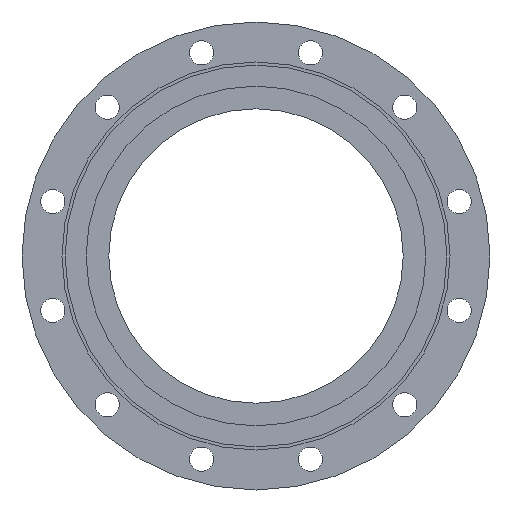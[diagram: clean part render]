
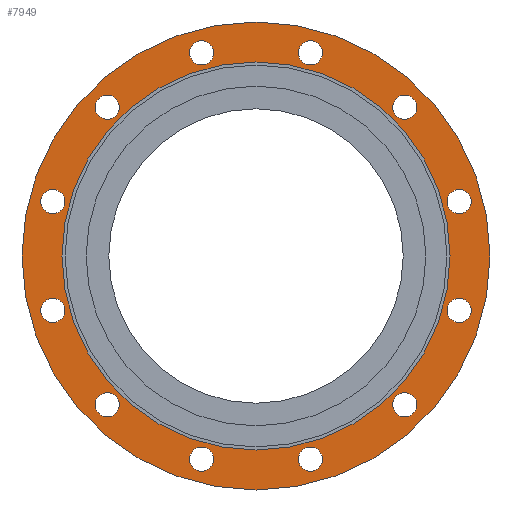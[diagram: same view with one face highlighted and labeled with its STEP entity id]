
A CAD part, left-side view. The second image highlights one B-rep face of the part: STEP entity #7949.
In plain terms, the highlighted planar face has unit normal (-1, 0, 0).
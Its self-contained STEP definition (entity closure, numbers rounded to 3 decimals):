
#7949=ADVANCED_FACE('',(#14298,#14300,#14302,#14304,#14306,#14308,#14310,#14312,
#14314,#14316,#14318,#14320,#14322,#14324),#14326,.T.);
#14298=FACE_BOUND('',#14299,.T.);
#14299=EDGE_LOOP('',(#19536,#19537));
#14300=FACE_BOUND('',#14301,.T.);
#14301=EDGE_LOOP('',(#19538));
#14302=FACE_BOUND('',#14303,.T.);
#14303=EDGE_LOOP('',(#19539));
#14304=FACE_BOUND('',#14305,.T.);
#14305=EDGE_LOOP('',(#19540));
#14306=FACE_BOUND('',#14307,.T.);
#14307=EDGE_LOOP('',(#19541));
#14308=FACE_BOUND('',#14309,.T.);
#14309=EDGE_LOOP('',(#19542));
#14310=FACE_BOUND('',#14311,.T.);
#14311=EDGE_LOOP('',(#19543));
#14312=FACE_BOUND('',#14313,.T.);
#14313=EDGE_LOOP('',(#19544));
#14314=FACE_BOUND('',#14315,.T.);
#14315=EDGE_LOOP('',(#19545));
#14316=FACE_BOUND('',#14317,.T.);
#14317=EDGE_LOOP('',(#19546));
#14318=FACE_BOUND('',#14319,.T.);
#14319=EDGE_LOOP('',(#19547));
#14320=FACE_BOUND('',#14321,.T.);
#14321=EDGE_LOOP('',(#19548));
#14322=FACE_BOUND('',#14323,.T.);
#14323=EDGE_LOOP('',(#19549,#19550));
#14324=FACE_BOUND('',#14325,.T.);
#14325=EDGE_LOOP('',(#19551));
#14326=PLANE('',#14327);
#14327=AXIS2_PLACEMENT_3D('',#14328,#14329,#14330);
#14328=CARTESIAN_POINT('',(13108.098,5586.919,0.));
#14329=DIRECTION('',(-1.,0.,0.));
#14330=DIRECTION('',(0.,0.,1.));
#19536=ORIENTED_EDGE('',*,*,#22170,.F.);
#19537=ORIENTED_EDGE('',*,*,#22171,.F.);
#19538=ORIENTED_EDGE('',*,*,#22096,.T.);
#19539=ORIENTED_EDGE('',*,*,#22098,.T.);
#19540=ORIENTED_EDGE('',*,*,#22100,.T.);
#19541=ORIENTED_EDGE('',*,*,#22102,.T.);
#19542=ORIENTED_EDGE('',*,*,#22104,.T.);
#19543=ORIENTED_EDGE('',*,*,#22130,.T.);
#19544=ORIENTED_EDGE('',*,*,#22132,.T.);
#19545=ORIENTED_EDGE('',*,*,#22134,.T.);
#19546=ORIENTED_EDGE('',*,*,#22136,.T.);
#19547=ORIENTED_EDGE('',*,*,#22138,.T.);
#19548=ORIENTED_EDGE('',*,*,#22140,.T.);
#19549=ORIENTED_EDGE('',*,*,#22169,.T.);
#19550=ORIENTED_EDGE('',*,*,#22168,.T.);
#19551=ORIENTED_EDGE('',*,*,#22094,.T.);
#22094=EDGE_CURVE('',#26270,#26270,#26271,.T.);
#22096=EDGE_CURVE('',#26274,#26274,#26275,.T.);
#22098=EDGE_CURVE('',#26278,#26278,#26279,.T.);
#22100=EDGE_CURVE('',#26282,#26282,#26283,.T.);
#22102=EDGE_CURVE('',#26286,#26286,#26287,.T.);
#22104=EDGE_CURVE('',#26290,#26290,#26291,.T.);
#22130=EDGE_CURVE('',#26342,#26342,#26343,.T.);
#22132=EDGE_CURVE('',#26346,#26346,#26347,.T.);
#22134=EDGE_CURVE('',#26350,#26350,#26351,.T.);
#22136=EDGE_CURVE('',#26354,#26354,#26355,.T.);
#22138=EDGE_CURVE('',#26358,#26358,#26359,.T.);
#22140=EDGE_CURVE('',#26362,#26362,#26363,.T.);
#22168=EDGE_CURVE('',#26418,#26419,#26420,.T.);
#22169=EDGE_CURVE('',#26419,#26418,#26421,.T.);
#22170=EDGE_CURVE('',#26422,#26423,#26424,.T.);
#22171=EDGE_CURVE('',#26423,#26422,#26425,.T.);
#26270=VERTEX_POINT('',#35436);
#26271=CIRCLE('',#35437,11.5);
#26274=VERTEX_POINT('',#35446);
#26275=CIRCLE('',#35447,11.5);
#26278=VERTEX_POINT('',#35456);
#26279=CIRCLE('',#35457,11.5);
#26282=VERTEX_POINT('',#35466);
#26283=CIRCLE('',#35467,11.5);
#26286=VERTEX_POINT('',#35476);
#26287=CIRCLE('',#35477,11.5);
#26290=VERTEX_POINT('',#35486);
#26291=CIRCLE('',#35487,11.5);
#26342=VERTEX_POINT('',#35616);
#26343=CIRCLE('',#35617,11.5);
#26346=VERTEX_POINT('',#35626);
#26347=CIRCLE('',#35627,11.5);
#26350=VERTEX_POINT('',#35636);
#26351=CIRCLE('',#35637,11.5);
#26354=VERTEX_POINT('',#35646);
#26355=CIRCLE('',#35647,11.5);
#26358=VERTEX_POINT('',#35656);
#26359=CIRCLE('',#35657,11.5);
#26362=VERTEX_POINT('',#35666);
#26363=CIRCLE('',#35667,11.5);
#26418=VERTEX_POINT('',#35806);
#26419=VERTEX_POINT('',#35807);
#26420=CIRCLE('',#35808,184.5);
#26421=CIRCLE('',#35812,184.5);
#26422=VERTEX_POINT('',#35816);
#26423=VERTEX_POINT('',#35817);
#26424=CIRCLE('',#35818,222.5);
#26425=CIRCLE('',#35822,222.5);
#35436=CARTESIAN_POINT('',(13108.098,5546.105,-51.764));
#35437=AXIS2_PLACEMENT_3D('',#35438,#35439,#35440);
#35438=CARTESIAN_POINT('',(13108.098,5557.605,-51.764));
#35439=DIRECTION('',(1.,0.,0.));
#35440=DIRECTION('',(0.,-1.,0.));
#35446=CARTESIAN_POINT('',(13108.098,5494.341,141.421));
#35447=AXIS2_PLACEMENT_3D('',#35448,#35449,#35450);
#35448=CARTESIAN_POINT('',(13108.098,5505.841,141.421));
#35449=DIRECTION('',(1.,0.,0.));
#35450=DIRECTION('',(0.,-1.,0.));
#35456=CARTESIAN_POINT('',(13108.098,5301.156,193.185));
#35457=AXIS2_PLACEMENT_3D('',#35458,#35459,#35460);
#35458=CARTESIAN_POINT('',(13108.098,5312.656,193.185));
#35459=DIRECTION('',(1.,0.,0.));
#35460=DIRECTION('',(0.,-1.,0.));
#35466=CARTESIAN_POINT('',(13108.098,5159.734,51.764));
#35467=AXIS2_PLACEMENT_3D('',#35468,#35469,#35470);
#35468=CARTESIAN_POINT('',(13108.098,5171.234,51.764));
#35469=DIRECTION('',(1.,0.,0.));
#35470=DIRECTION('',(0.,-1.,0.));
#35476=CARTESIAN_POINT('',(13108.098,5211.498,-141.421));
#35477=AXIS2_PLACEMENT_3D('',#35478,#35479,#35480);
#35478=CARTESIAN_POINT('',(13108.098,5222.998,-141.421));
#35479=DIRECTION('',(1.,0.,0.));
#35480=DIRECTION('',(0.,-1.,0.));
#35486=CARTESIAN_POINT('',(13108.098,5404.683,-193.185));
#35487=AXIS2_PLACEMENT_3D('',#35488,#35489,#35490);
#35488=CARTESIAN_POINT('',(13108.098,5416.183,-193.185));
#35489=DIRECTION('',(1.,0.,0.));
#35490=DIRECTION('',(0.,-1.,0.));
#35616=CARTESIAN_POINT('',(13108.098,5301.156,-193.185));
#35617=AXIS2_PLACEMENT_3D('',#35618,#35619,#35620);
#35618=CARTESIAN_POINT('',(13108.098,5312.656,-193.185));
#35619=DIRECTION('',(1.,0.,0.));
#35620=DIRECTION('',(0.,-1.,0.));
#35626=CARTESIAN_POINT('',(13108.098,5159.734,-51.764));
#35627=AXIS2_PLACEMENT_3D('',#35628,#35629,#35630);
#35628=CARTESIAN_POINT('',(13108.098,5171.234,-51.764));
#35629=DIRECTION('',(1.,0.,0.));
#35630=DIRECTION('',(0.,-1.,0.));
#35636=CARTESIAN_POINT('',(13108.098,5211.498,141.421));
#35637=AXIS2_PLACEMENT_3D('',#35638,#35639,#35640);
#35638=CARTESIAN_POINT('',(13108.098,5222.998,141.421));
#35639=DIRECTION('',(1.,0.,0.));
#35640=DIRECTION('',(0.,-1.,0.));
#35646=CARTESIAN_POINT('',(13108.098,5404.683,193.185));
#35647=AXIS2_PLACEMENT_3D('',#35648,#35649,#35650);
#35648=CARTESIAN_POINT('',(13108.098,5416.183,193.185));
#35649=DIRECTION('',(1.,0.,0.));
#35650=DIRECTION('',(0.,-1.,0.));
#35656=CARTESIAN_POINT('',(13108.098,5546.105,51.764));
#35657=AXIS2_PLACEMENT_3D('',#35658,#35659,#35660);
#35658=CARTESIAN_POINT('',(13108.098,5557.605,51.764));
#35659=DIRECTION('',(1.,0.,0.));
#35660=DIRECTION('',(0.,-1.,0.));
#35666=CARTESIAN_POINT('',(13108.098,5494.341,-141.421));
#35667=AXIS2_PLACEMENT_3D('',#35668,#35669,#35670);
#35668=CARTESIAN_POINT('',(13108.098,5505.841,-141.421));
#35669=DIRECTION('',(1.,0.,0.));
#35670=DIRECTION('',(0.,-1.,0.));
#35806=CARTESIAN_POINT('',(13108.098,5179.919,0.));
#35807=CARTESIAN_POINT('',(13108.098,5548.919,0.));
#35808=AXIS2_PLACEMENT_3D('',#35809,#35810,#35811);
#35809=CARTESIAN_POINT('',(13108.098,5364.419,0.));
#35810=DIRECTION('',(1.,0.,0.));
#35811=DIRECTION('',(0.,-1.,0.));
#35812=AXIS2_PLACEMENT_3D('',#35813,#35814,#35815);
#35813=CARTESIAN_POINT('',(13108.098,5364.419,0.));
#35814=DIRECTION('',(1.,0.,0.));
#35815=DIRECTION('',(0.,1.,0.));
#35816=CARTESIAN_POINT('',(13108.098,5141.919,0.));
#35817=CARTESIAN_POINT('',(13108.098,5586.919,0.));
#35818=AXIS2_PLACEMENT_3D('',#35819,#35820,#35821);
#35819=CARTESIAN_POINT('',(13108.098,5364.419,0.));
#35820=DIRECTION('',(1.,0.,0.));
#35821=DIRECTION('',(0.,-1.,0.));
#35822=AXIS2_PLACEMENT_3D('',#35823,#35824,#35825);
#35823=CARTESIAN_POINT('',(13108.098,5364.419,0.));
#35824=DIRECTION('',(1.,0.,0.));
#35825=DIRECTION('',(0.,1.,0.));
